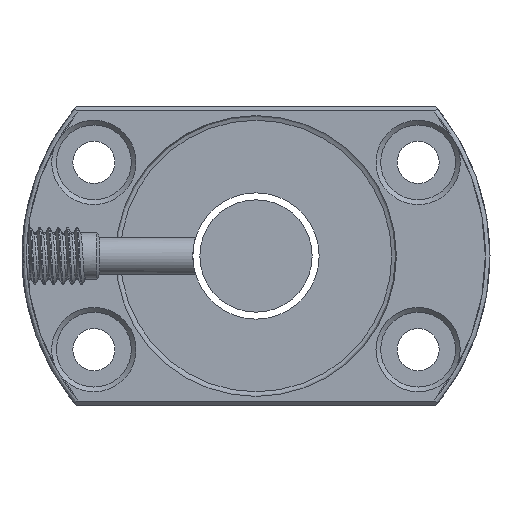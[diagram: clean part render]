
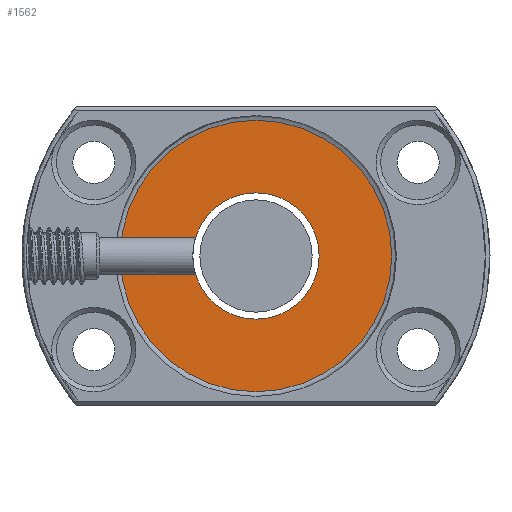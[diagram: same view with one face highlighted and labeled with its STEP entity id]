
A CAD part, left-side view. The second image highlights one B-rep face of the part: STEP entity #1562.
In plain terms, the highlighted planar face has unit normal (1, 0, 0).
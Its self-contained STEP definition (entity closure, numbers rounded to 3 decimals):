
#3 = EDGE_LOOP ( 'NONE', ( #1993 ) ) ;
#190 = EDGE_LOOP ( 'NONE', ( #836 ) ) ;
#225 = VERTEX_POINT ( 'NONE', #1200 ) ;
#313 = EDGE_CURVE ( 'NONE', #225, #225, #2264, .T. ) ;
#428 = CIRCLE ( 'NONE', #3083, 6.75 ) ;
#460 = AXIS2_PLACEMENT_3D ( 'NONE', #2012, #2972, #821 ) ;
#616 = PLANE ( 'NONE',  #460 ) ;
#758 = CARTESIAN_POINT ( 'NONE',  ( 0., 0., -6.75 ) ) ;
#821 = DIRECTION ( 'NONE',  ( 0., 0., -1. ) ) ;
#836 = ORIENTED_EDGE ( 'NONE', *, *, #1890, .F. ) ;
#1077 = FACE_OUTER_BOUND ( 'NONE', #3, .T. ) ;
#1200 = CARTESIAN_POINT ( 'NONE',  ( 0., 0., -14.5 ) ) ;
#1426 = CARTESIAN_POINT ( 'NONE',  ( 0., 0., 0. ) ) ;
#1441 = DIRECTION ( 'NONE',  ( 1., 0., 0. ) ) ;
#1562 = ADVANCED_FACE ( 'NONE', ( #1077, #3003 ), #616, .T. ) ;
#1647 = DIRECTION ( 'NONE',  ( 0., 0., -1. ) ) ;
#1890 = EDGE_CURVE ( 'NONE', #2449, #2449, #428, .T. ) ;
#1931 = DIRECTION ( 'NONE',  ( 0., 0., -1. ) ) ;
#1993 = ORIENTED_EDGE ( 'NONE', *, *, #313, .T. ) ;
#2012 = CARTESIAN_POINT ( 'NONE',  ( 0., 6.75, 0. ) ) ;
#2264 = CIRCLE ( 'NONE', #2614, 14.5 ) ;
#2366 = CARTESIAN_POINT ( 'NONE',  ( 0., 0., 0. ) ) ;
#2449 = VERTEX_POINT ( 'NONE', #758 ) ;
#2614 = AXIS2_PLACEMENT_3D ( 'NONE', #1426, #2841, #1931 ) ;
#2841 = DIRECTION ( 'NONE',  ( 1., 0., 0. ) ) ;
#2972 = DIRECTION ( 'NONE',  ( 1., 0., 0. ) ) ;
#3003 = FACE_BOUND ( 'NONE', #190, .T. ) ;
#3083 = AXIS2_PLACEMENT_3D ( 'NONE', #2366, #1441, #1647 ) ;
